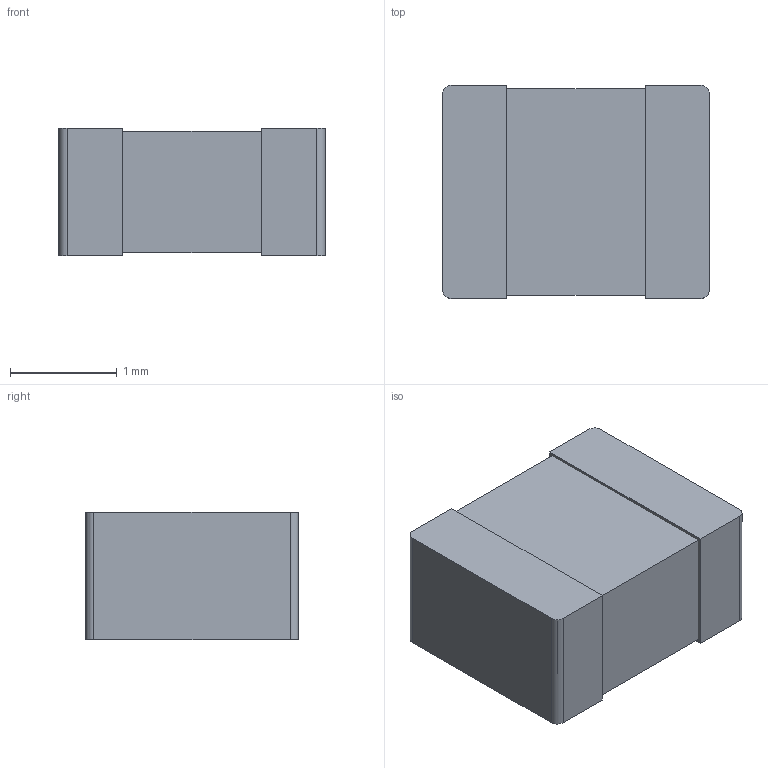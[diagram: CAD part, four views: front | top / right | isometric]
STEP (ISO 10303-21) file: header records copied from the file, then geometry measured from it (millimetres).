
FILE_DESCRIPTION (( 'STEP AP214' ), '1' );
FILE_NAME ('L_ENA2520MK.STEP', '2022-04-08T04:58:16', ( '' ), ( '' ), 'SwSTEP 2.0', 'SolidWorks 2012', '' );
FILE_SCHEMA (( 'AUTOMOTIVE_DESIGN' ));
Length unit declared in the file: millimetre
Products named in the file (2): L_ENA2520MK
Assembly tree (1 placements, depth 2):
  L_ENA2520MK
    L_ENA2520MK
Bounding box: 2.5 x 2 x 1.2 mm (x, y, z)
Surface area: 36.6 mm2
Topology: 3 solids, 3 shells, 22 faces, 48 edges, 32 vertices
Faces by surface type: plane 18, cylinder 4
Entity records: 750 total; most frequent: DIRECTION 108, CARTESIAN_POINT 106, ORIENTED_EDGE 96, EDGE_CURVE 48, VECTOR 40, LINE 40, AXIS2_PLACEMENT_3D 34, VERTEX_POINT 32
